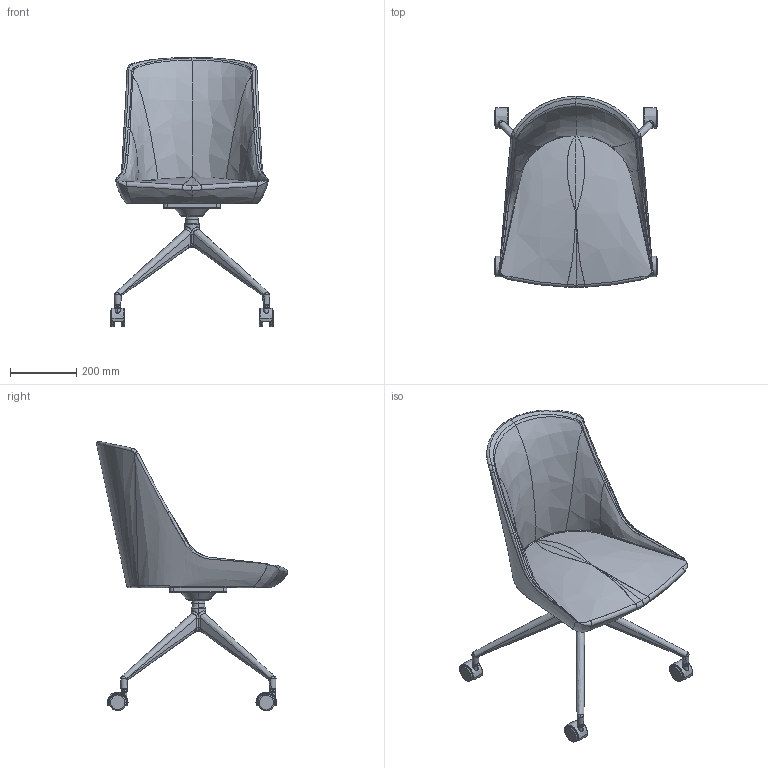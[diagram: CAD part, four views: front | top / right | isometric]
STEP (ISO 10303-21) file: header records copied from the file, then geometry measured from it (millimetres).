
FILE_DESCRIPTION(/* description */ (''),/* implementation_level */ '2;1');
FILE_NAME(/* name */ 'KINOSH~4',/* time_stamp */ '2019-07-19T10:49:28+09:00',/* author */ (''),/* organization */ (''),/* preprocessor_version */ 'ST-DEVELOPER v15',/* originating_system */ '',/* authorisation */ '');
FILE_SCHEMA (('AUTOMOTIVE_DESIGN'));
Length unit declared in the file: millimetre
Products named in the file (2): Document; ﾌﾞﾛｯｸ 44
Assembly tree (1 placements, depth 2):
  Document
    ﾌﾞﾛｯｸ 44
Bounding box: 489.89 x 575.01 x 809.9 mm (x, y, z)
Volume: 801696 mm3; surface area: 1188610.1 mm2
Topology: 13 solids, 20 shells, 885 faces, 2286 edges, 1287 vertices
Faces by surface type: bspline 757, plane 128
Entity records: 79315 total; most frequent: CARTESIAN_POINT 67195, ORIENTED_EDGE 4095, EDGE_CURVE 2253, VERTEX_POINT 1288, B_SPLINE_CURVE_WITH_KNOTS 1211, EDGE_LOOP 920, ADVANCED_FACE 885, FACE_OUTER_BOUND 885
